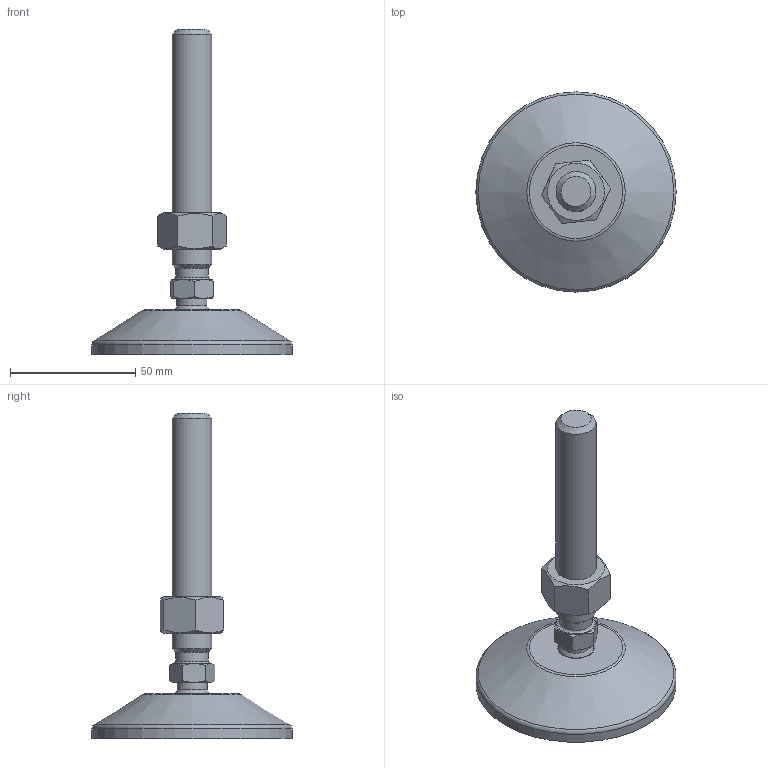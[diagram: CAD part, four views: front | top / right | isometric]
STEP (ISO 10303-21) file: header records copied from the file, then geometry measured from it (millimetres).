
FILE_DESCRIPTION(('STEP AP203'), '1');
FILE_NAME('栖闉罻', '', ('UNSPECIFIED'), ('UNSPECIFIED'), 'C3D Converter', 'C3D Toolkit', '');
FILE_SCHEMA(('CONFIG_CONTROL_DESIGN'));
Length unit declared in the file: millimetre
Products named in the file (4): A00020.116100; A00015.1080
Assembly tree (3 placements, depth 3):
  (unnamed)
    A00020.116100
      (unnamed)
    A00015.1080
Bounding box: 80 x 80 x 130.01 mm (x, y, z)
Volume: 64016.3 mm3; surface area: 25346.7 mm2
Topology: 3 solids, 3 shells, 189 faces, 478 edges, 316 vertices
Faces by surface type: plane 95, cylinder 58, cone 20, torus 14, sphere 2
Full cylindrical faces by diameter (mm): 4 x8, 12 x1, 13 x1, 13.835 x1, 14.3 x1, 15 x2, 15.5 x1, 16 x1, 69.3 x1, 80 x1
Entity records: 9576 total; most frequent: CARTESIAN_POINT 3398, DIRECTION 944, ORIENTED_EDGE 884, EDGE_CURVE 442, AXIS2_PLACEMENT_3D 378, VERTEX_POINT 315, EDGE_LOOP 247, FACE_BOUND 207
